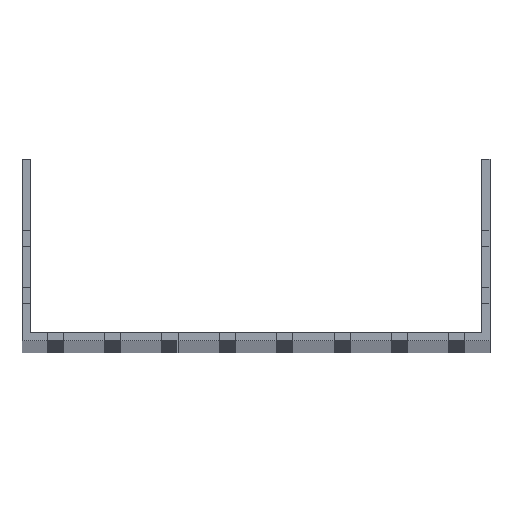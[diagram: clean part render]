
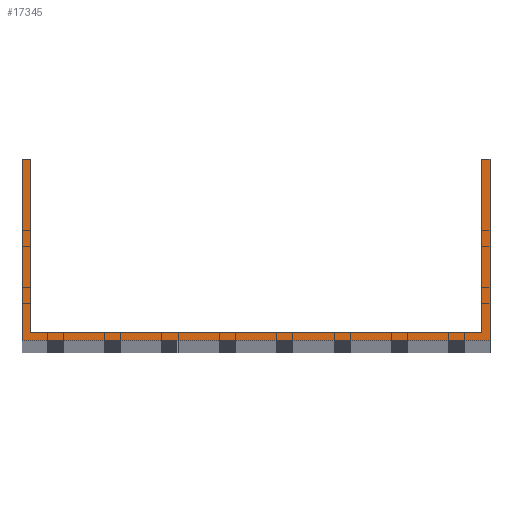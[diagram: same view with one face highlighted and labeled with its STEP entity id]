
A CAD part, top view. The second image highlights one B-rep face of the part: STEP entity #17345.
In plain terms, the highlighted planar face has unit normal (0, 0, 1).
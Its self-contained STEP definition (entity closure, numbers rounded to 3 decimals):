
#911 = DIRECTION ( 'NONE',  ( -1., 0., 0. ) ) ;
#2424 = VERTEX_POINT ( 'NONE', #103090 ) ;
#4906 = VERTEX_POINT ( 'NONE', #105108 ) ;
#5085 = VERTEX_POINT ( 'NONE', #116384 ) ;
#5628 = ORIENTED_EDGE ( 'NONE', *, *, #8466, .F. ) ;
#6886 = CARTESIAN_POINT ( 'NONE',  ( -102., 79., 1500. ) ) ;
#8267 = VECTOR ( 'NONE', #43635, 1000. ) ;
#8466 = EDGE_CURVE ( 'NONE', #4906, #93639, #40588, .T. ) ;
#12206 = DIRECTION ( 'NONE',  ( 0., 1., 0. ) ) ;
#13169 = EDGE_LOOP ( 'NONE', ( #5628, #108443, #110839, #28114, #61514, #105262, #60138, #80457 ) ) ;
#14789 = VECTOR ( 'NONE', #53448, 1000. ) ;
#17345 = ADVANCED_FACE ( 'NONE', ( #81792 ), #77828, .T. ) ;
#18947 = CARTESIAN_POINT ( 'NONE',  ( 98.5, 79., 1500. ) ) ;
#22168 = CARTESIAN_POINT ( 'NONE',  ( 102., 0., 1500. ) ) ;
#23985 = VECTOR ( 'NONE', #46668, 1000. ) ;
#28114 = ORIENTED_EDGE ( 'NONE', *, *, #51949, .T. ) ;
#31072 = DIRECTION ( 'NONE',  ( 0., -1., 0. ) ) ;
#32607 = DIRECTION ( 'NONE',  ( 1., 0., 0. ) ) ;
#33102 = DIRECTION ( 'NONE',  ( -1., 0., 0. ) ) ;
#34418 = LINE ( 'NONE', #90329, #14789 ) ;
#40588 = LINE ( 'NONE', #114956, #41854 ) ;
#41854 = VECTOR ( 'NONE', #31072, 1000. ) ;
#42740 = EDGE_CURVE ( 'NONE', #2424, #89155, #114626, .T. ) ;
#43635 = DIRECTION ( 'NONE',  ( 1., 0., 0. ) ) ;
#46481 = EDGE_CURVE ( 'NONE', #5085, #89155, #64176, .T. ) ;
#46668 = DIRECTION ( 'NONE',  ( 0., -1., 0. ) ) ;
#47857 = CARTESIAN_POINT ( 'NONE',  ( -102., 79., 1500. ) ) ;
#47900 = LINE ( 'NONE', #82436, #99465 ) ;
#49610 = EDGE_CURVE ( 'NONE', #115889, #58577, #85317, .T. ) ;
#51949 = EDGE_CURVE ( 'NONE', #58577, #85568, #34418, .T. ) ;
#52254 = VECTOR ( 'NONE', #12206, 1000. ) ;
#53448 = DIRECTION ( 'NONE',  ( 1., 0., 0. ) ) ;
#53945 = CARTESIAN_POINT ( 'NONE',  ( 98.5, 79., 1500. ) ) ;
#55253 = DIRECTION ( 'NONE',  ( 0., 1., 0. ) ) ;
#58577 = VERTEX_POINT ( 'NONE', #68098 ) ;
#60075 = EDGE_CURVE ( 'NONE', #4906, #115889, #47900, .T. ) ;
#60138 = ORIENTED_EDGE ( 'NONE', *, *, #46481, .F. ) ;
#61514 = ORIENTED_EDGE ( 'NONE', *, *, #73673, .T. ) ;
#63835 = LINE ( 'NONE', #98380, #8267 ) ;
#64176 = LINE ( 'NONE', #18947, #95947 ) ;
#67141 = AXIS2_PLACEMENT_3D ( 'NONE', #88503, #115291, #32607 ) ;
#68098 = CARTESIAN_POINT ( 'NONE',  ( -102., 0., 1500. ) ) ;
#71882 = EDGE_CURVE ( 'NONE', #93639, #5085, #63835, .T. ) ;
#73673 = EDGE_CURVE ( 'NONE', #85568, #2424, #75869, .T. ) ;
#75869 = LINE ( 'NONE', #100442, #52254 ) ;
#77828 = PLANE ( 'NONE',  #67141 ) ;
#78087 = CARTESIAN_POINT ( 'NONE',  ( -98.5, 3.5, 1500. ) ) ;
#80457 = ORIENTED_EDGE ( 'NONE', *, *, #71882, .F. ) ;
#81792 = FACE_OUTER_BOUND ( 'NONE', #13169, .T. ) ;
#82436 = CARTESIAN_POINT ( 'NONE',  ( -102., 79., 1500. ) ) ;
#85317 = LINE ( 'NONE', #47857, #23985 ) ;
#85568 = VERTEX_POINT ( 'NONE', #22168 ) ;
#88503 = CARTESIAN_POINT ( 'NONE',  ( 0., 0., 1500. ) ) ;
#89155 = VERTEX_POINT ( 'NONE', #53945 ) ;
#90282 = CARTESIAN_POINT ( 'NONE',  ( -102., 79., 1500. ) ) ;
#90329 = CARTESIAN_POINT ( 'NONE',  ( -102., 0., 1500. ) ) ;
#93639 = VERTEX_POINT ( 'NONE', #78087 ) ;
#95947 = VECTOR ( 'NONE', #55253, 1000. ) ;
#98380 = CARTESIAN_POINT ( 'NONE',  ( -102., 3.5, 1500. ) ) ;
#99465 = VECTOR ( 'NONE', #911, 1000. ) ;
#100442 = CARTESIAN_POINT ( 'NONE',  ( 102., 79., 1500. ) ) ;
#103090 = CARTESIAN_POINT ( 'NONE',  ( 102., 79., 1500. ) ) ;
#105108 = CARTESIAN_POINT ( 'NONE',  ( -98.5, 79., 1500. ) ) ;
#105262 = ORIENTED_EDGE ( 'NONE', *, *, #42740, .T. ) ;
#108443 = ORIENTED_EDGE ( 'NONE', *, *, #60075, .T. ) ;
#110348 = VECTOR ( 'NONE', #33102, 1000. ) ;
#110839 = ORIENTED_EDGE ( 'NONE', *, *, #49610, .T. ) ;
#114626 = LINE ( 'NONE', #6886, #110348 ) ;
#114956 = CARTESIAN_POINT ( 'NONE',  ( -98.5, 79., 1500. ) ) ;
#115291 = DIRECTION ( 'NONE',  ( 0., 0., 1. ) ) ;
#115889 = VERTEX_POINT ( 'NONE', #90282 ) ;
#116384 = CARTESIAN_POINT ( 'NONE',  ( 98.5, 3.5, 1500. ) ) ;
